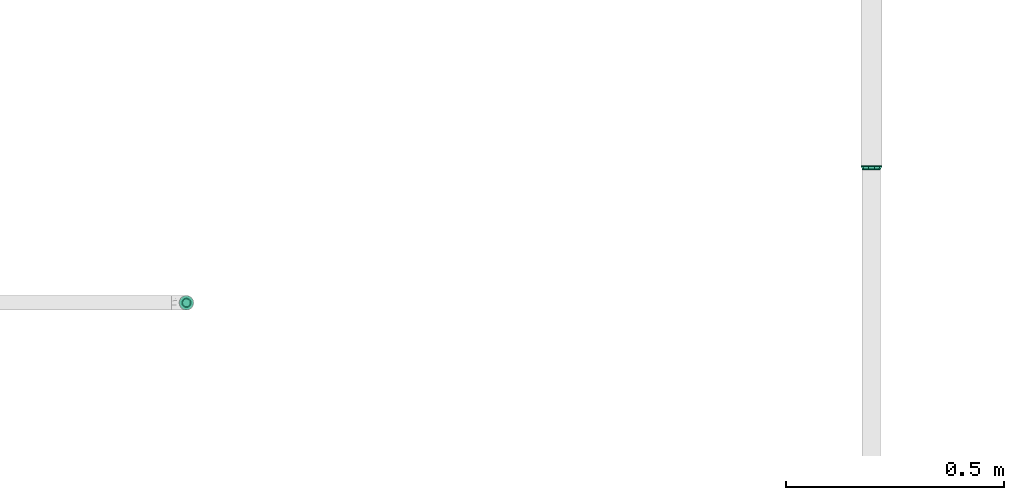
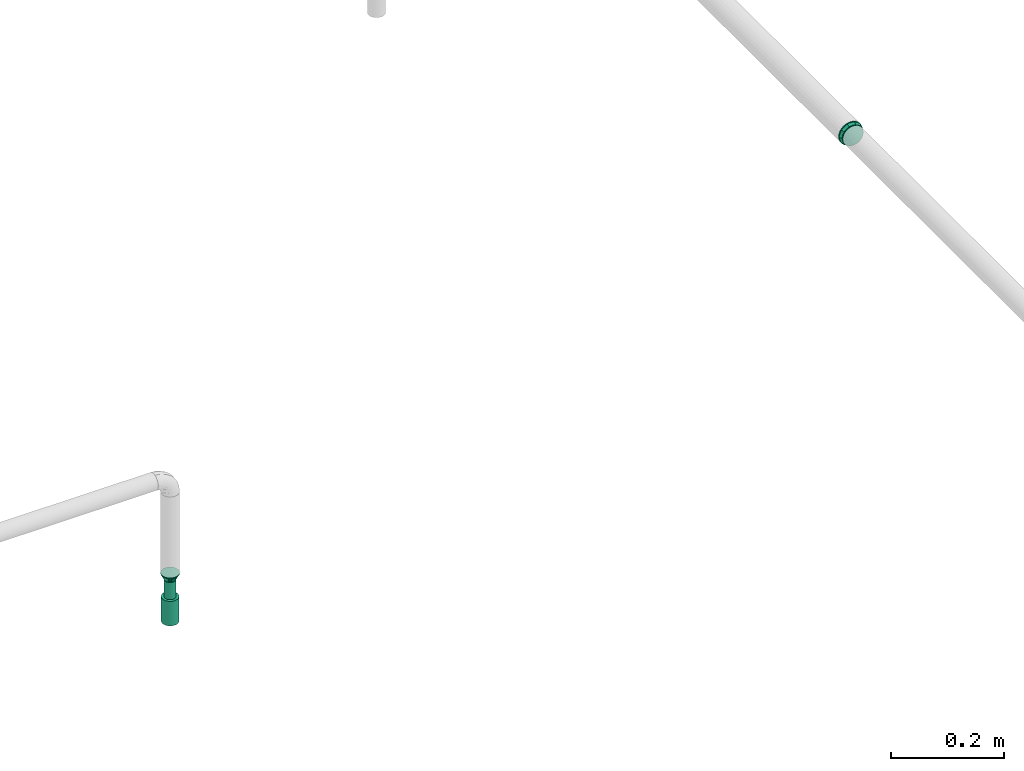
# One storey, part 22 of 43: 2 flow fittings, 1 flow segment, 1 flow terminal.
"""IFC2X3 building model written with IfcOpenShell, lengths in millimetres."""

from ifc_helpers import new_model, entity, si_unit, converted_unit, derived_unit, direction, frame, origin_with_axes, origin_2d_with_axis, place, context, subcontext, project, spatial, hollow_circle, extrude, open_shell, surface_model, source, transform, mapped, type_object, element, save


model = new_model("IFC2X3")

# Units and contexts
model_context = context("Model", 3, precision=0.01, world=frame((0.0, 4.29681676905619e-09, 0.0)), true_north=direction((4.01073788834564e-13, 1.0)))
plan_context = context("Plan", 3, precision=0.01, world=frame((0.0, 4.29681676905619e-09, 0.0)), true_north=direction((4.01073788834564e-13, 1.0)))
body_context = subcontext(model_context, "Body", "Model", "MODEL_VIEW")
ifc_project = project(units=[converted_unit("PLANEANGLEUNIT", "DEGREE", entity("IfcPositiveLengthMeasure", 0.0174532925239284), si_unit("PLANEANGLEUNIT", "RADIAN"), dimensions=[0, 0, 0, 0, 0, 0, 0]), si_unit("AREAUNIT", "SQUARE_METRE"), si_unit("LENGTHUNIT", "METRE", prefix="MILLI"), si_unit("MASSUNIT", "GRAM", prefix="KILO"), si_unit("POWERUNIT", "WATT"), si_unit("PRESSUREUNIT", "PASCAL"), si_unit("FORCEUNIT", "NEWTON", prefix="KILO"), si_unit("ELECTRICVOLTAGEUNIT", "VOLT"), si_unit("ELECTRICCURRENTUNIT", "AMPERE"), si_unit("THERMODYNAMICTEMPERATUREUNIT", "DEGREE_CELSIUS"), si_unit("TIMEUNIT", "SECOND"), si_unit("VOLUMEUNIT", "CUBIC_METRE"), derived_unit("LINEARVELOCITYUNIT", [(si_unit("LENGTHUNIT", "METRE"), 1), (si_unit("TIMEUNIT", "SECOND"), -1)]), derived_unit("VOLUMETRICFLOWRATEUNIT", [(si_unit("VOLUMEUNIT", "CUBIC_METRE"), 1), (si_unit("TIMEUNIT", "SECOND"), -1)]), derived_unit("THERMALTRANSMITTANCEUNIT", [(si_unit("POWERUNIT", "WATT"), 1), (si_unit("THERMODYNAMICTEMPERATUREUNIT", "KELVIN"), -1), (si_unit("AREAUNIT", "SQUARE_METRE"), -1)]), derived_unit("SOUNDPRESSUREUNIT", [(si_unit("PRESSUREUNIT", "PASCAL"), 1)])], contexts=[model_context, plan_context])

# Site, building, storey
site_placement = place(None, frame((0.0, -4.29681676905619e-09, 0.0), z_axis=(0.0, 0.0, 1.0), x_axis=(1.0, 0.0, 0.0)))
site = spatial("IfcSite", under=ifc_project, at=site_placement, CompositionType="ELEMENT")
building_placement = place(site_placement, frame((0.0, 4.29681676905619e-09, 0.0), z_axis=(0.0, 0.0, 1.0), x_axis=(1.0, 0.0, 0.0)))
building = spatial("IfcBuilding", under=site, at=building_placement, Name="mc-building", CompositionType="ELEMENT")
storey_placement = place(building_placement, frame((0.0, 0.0, 210900.0), z_axis=(0.0, 0.0, 1.0), x_axis=(1.0, 0.0, 0.0)))
storey = spatial("IfcBuildingStorey", under=building, at=storey_placement, Name="Nivå F", CompositionType="ELEMENT", Elevation=210900.0)

# Flow fittings
pipe_fitting_type = type_object("IfcPipeFittingType", Name="magi_pipe_fe_reducer_centric_short_NOR", PredefinedType="TRANSITION")
shared_shape_1 = source(origin_with_axes(), body_context, "Body", "SurfaceModel", [
    surface_model("IfcShellBasedSurfaceModel", [(14.4, 5.35, -9.26647), (14.4, 0.0, -10.7), (14.4, 2.76936, -10.33541), (14.4, 10.33541, -2.76936), (14.4, 7.56604, -7.56604), (14.4, -5.35, -9.26647), (14.4, 9.26647, -5.35), (14.4, -9.26647, 5.35), (14.4, -2.76936, -10.33541), (14.4, -7.56604, -7.56604), (14.4, -10.33541, -2.76936), (14.4, -9.26647, -5.35), (14.4, 10.33541, 2.76936), (14.4, 10.7, 0.0), (14.4, 9.26647, 5.35), (14.4, 7.56604, 7.56604), (14.4, 2.76936, 10.33541), (14.4, 0.0, 10.7), (14.4, 5.35, 9.26647), (14.4, -10.33541, 2.76936), (14.4, -10.7, 0.0), (14.4, -7.56604, 7.56604), (14.4, -2.76936, 10.33541), (14.4, -5.35, 9.26647), (12.4, 0.0, 10.7), (12.4, 2.76936, 10.33541), (12.4, 5.35, 9.26647), (12.4, 7.56604, 7.56604), (12.4, 9.26647, 5.35), (12.4, 10.33541, 2.76936), (12.4, -10.33541, 2.76936), (12.4, 10.33541, -2.76936), (12.4, -2.76936, 10.33541), (12.4, -7.56604, 7.56604), (12.4, -5.35, 9.26647), (12.4, -9.26647, 5.35), (12.4, -10.33541, -2.76936), (12.4, -10.7, 0.0), (12.4, 2.76936, -10.33541), (12.4, 9.26647, -5.35), (12.4, 7.56604, -7.56604), (12.4, 5.35, -9.26647), (12.4, -7.56604, -7.56604), (12.4, -9.26647, -5.35), (12.4, -5.35, -9.26647), (12.4, 0.0, -10.7), (12.4, -2.76936, -10.33541), (12.4, 10.7, 0.0), (-2.0, 11.9501, 11.9501), (-2.0, 0.0, 16.9), (-2.0, 4.37404, 16.32415), (-2.0, 8.45, 14.63583), (-2.0, 14.63583, 8.45), (-2.0, 16.32415, 4.37404), (-2.0, -16.32415, 4.37404), (-2.0, -8.45, 14.63583), (-2.0, -14.63583, 8.45), (-2.0, -11.9501, 11.9501), (-2.0, -4.37404, 16.32415), (-2.0, -16.32415, -4.37404), (-2.0, -16.9, 0.0), (-2.0, -8.45, -14.63583), (-2.0, 16.32415, -4.37404), (-2.0, 11.9501, -11.9501), (-2.0, 14.63583, -8.45), (-2.0, 8.45, -14.63583), (-2.0, 4.37404, -16.32415), (-2.0, 0.0, -16.9), (-2.0, -11.9501, -11.9501), (-2.0, -14.63583, -8.45), (-2.0, -4.37404, -16.32415), (-2.0, 16.9, 0.0), (0.0, 4.37404, -16.32415), (0.0, 8.45, -14.63583), (0.0, 11.9501, -11.9501), (0.0, 0.0, -16.9), (0.0, 16.32415, -4.37404), (0.0, 16.32415, 4.37404), (0.0, 14.63583, -8.45), (0.0, -8.45, -14.63583), (0.0, -4.37404, -16.32415), (0.0, -11.9501, -11.9501), (0.0, -16.32415, -4.37404), (0.0, -14.63583, -8.45), (0.0, -16.32415, 4.37404), (0.0, 16.9, 0.0), (0.0, 14.63583, 8.45), (0.0, 11.9501, 11.9501), (0.0, 4.37404, 16.32415), (0.0, 8.45, 14.63583), (0.0, 0.0, 16.9), (0.0, -14.63583, 8.45), (0.0, -16.9, 0.0), (0.0, -8.45, 14.63583), (0.0, -11.9501, 11.9501), (0.0, -4.37404, 16.32415), (12.4, 9.3625, -2.31662), (0.0, 14.42505, -5.97505), (0.0, 15.66253, -2.98753), (12.4, -6.6875, -6.94985), (0.0, -13.18758, -8.96258), (0.0, 2.98753, -15.66253), (12.4, 0.0, -9.26647), (12.4, 6.6875, -6.94985), (0.0, 8.96258, -13.18758), (12.4, -9.3625, -2.31662), (0.0, -15.66253, -2.98753), (0.0, -14.42505, -5.97505), (0.0, 5.97505, -14.42505), (0.0, -2.98753, -15.66253), (0.0, -8.96258, -13.18758), (0.0, 13.18758, -8.96258), (12.4, 8.025, -4.63324), (12.4, -2.675, -9.26647), (12.4, 2.675, -9.26647), (0.0, -5.97505, -14.42505), (12.4, -8.025, -4.63324), (12.4, -9.3625, 2.31662), (0.0, -14.42505, 5.97505), (0.0, -15.66253, 2.98753), (12.4, 6.6875, 6.94985), (0.0, 13.18758, 8.96258), (0.0, -2.98753, 15.66253), (12.4, 0.0, 9.26647), (12.4, -6.6875, 6.94985), (0.0, -8.96258, 13.18758), (12.4, 9.3625, 2.31662), (0.0, 15.66253, 2.98753), (0.0, 14.42505, 5.97505), (0.0, -5.97505, 14.42505), (0.0, 2.98753, 15.66253), (0.0, 8.96258, 13.18758), (0.0, -13.18758, 8.96258), (12.4, -8.025, 4.63324), (12.4, 2.675, 9.26647), (12.4, -2.675, 9.26647), (0.0, 5.97505, 14.42505), (12.4, 8.025, 4.63324)], [open_shell([[[0, 1, 2]], [[3, 0, 4]], [[5, 0, 3]], [[3, 4, 6]], [[7, 5, 3]], [[1, 5, 8]], [[1, 0, 5]], [[9, 10, 11]], [[10, 9, 5]], [[5, 7, 10]], [[12, 3, 13]], [[12, 14, 15]], [[3, 15, 7]], [[16, 17, 15]], [[16, 15, 18]], [[7, 15, 17]], [[10, 19, 20]], [[7, 19, 10]], [[21, 22, 23]], [[22, 21, 7]], [[17, 22, 7]], [[3, 12, 15]], [[24, 25, 26]], [[24, 26, 27]], [[27, 28, 29]], [[24, 27, 30]], [[31, 30, 27]], [[32, 33, 34]], [[33, 32, 30]], [[33, 30, 35]], [[32, 24, 30]], [[30, 36, 37]], [[31, 27, 29]], [[36, 30, 31]], [[38, 31, 39]], [[40, 41, 38]], [[40, 38, 39]], [[36, 31, 38]], [[36, 42, 43]], [[42, 36, 44]], [[44, 45, 46]], [[44, 36, 38]], [[38, 45, 44]], [[31, 29, 47]], [[36, 10, 37]], [[43, 11, 36]], [[5, 42, 44]], [[43, 42, 9]], [[8, 44, 46]], [[36, 11, 10]], [[10, 20, 37]], [[8, 5, 44]], [[9, 42, 5]], [[9, 11, 43]], [[1, 8, 46]], [[46, 45, 1]], [[38, 2, 45]], [[41, 0, 38]], [[6, 40, 39]], [[41, 40, 4]], [[3, 39, 31]], [[41, 4, 0]], [[0, 2, 38]], [[13, 3, 31]], [[6, 39, 3]], [[6, 4, 40]], [[47, 13, 31]], [[45, 2, 1]], [[29, 12, 47]], [[28, 14, 29]], [[18, 27, 26]], [[28, 27, 15]], [[16, 26, 25]], [[29, 14, 12]], [[12, 13, 47]], [[16, 18, 26]], [[15, 27, 18]], [[15, 14, 28]], [[17, 16, 25]], [[25, 24, 17]], [[32, 22, 24]], [[34, 23, 32]], [[7, 33, 35]], [[34, 33, 21]], [[19, 35, 30]], [[34, 21, 23]], [[23, 22, 32]], [[20, 19, 30]], [[7, 35, 19]], [[7, 21, 33]], [[37, 20, 30]], [[24, 22, 17]], [[48, 49, 50]], [[48, 50, 51]], [[48, 52, 53]], [[48, 53, 49]], [[49, 53, 54]], [[55, 56, 57]], [[55, 58, 49]], [[56, 55, 49]], [[49, 54, 56]], [[54, 59, 60]], [[54, 53, 61]], [[53, 62, 63]], [[63, 62, 64]], [[63, 65, 66]], [[61, 53, 63]], [[67, 63, 66]], [[59, 68, 69]], [[68, 59, 61]], [[61, 67, 70]], [[59, 54, 61]], [[63, 67, 61]], [[53, 71, 62]], [[72, 73, 74]], [[75, 72, 74]], [[74, 76, 77]], [[76, 74, 78]], [[74, 77, 79]], [[75, 79, 80]], [[75, 74, 79]], [[81, 82, 83]], [[82, 81, 79]], [[79, 84, 82]], [[77, 76, 85]], [[77, 86, 87]], [[77, 87, 88]], [[88, 84, 79]], [[88, 87, 89]], [[84, 88, 90]], [[90, 91, 84]], [[92, 82, 84]], [[91, 93, 94]], [[91, 90, 93]], [[93, 90, 95]], [[79, 77, 88]], [[59, 82, 60]], [[69, 83, 59]], [[79, 68, 61]], [[69, 68, 81]], [[80, 61, 70]], [[59, 83, 82]], [[82, 92, 60]], [[80, 79, 61]], [[81, 68, 79]], [[81, 83, 69]], [[75, 80, 70]], [[70, 67, 75]], [[66, 72, 67]], [[65, 73, 66]], [[78, 63, 64]], [[65, 63, 74]], [[76, 64, 62]], [[65, 74, 73]], [[73, 72, 66]], [[85, 76, 62]], [[78, 64, 76]], [[78, 74, 63]], [[71, 85, 62]], [[67, 72, 75]], [[53, 77, 71]], [[52, 86, 53]], [[89, 48, 51]], [[52, 48, 87]], [[88, 51, 50]], [[53, 86, 77]], [[77, 85, 71]], [[88, 89, 51]], [[87, 48, 89]], [[87, 86, 52]], [[90, 88, 50]], [[50, 49, 90]], [[58, 95, 49]], [[55, 93, 58]], [[91, 57, 56]], [[55, 57, 94]], [[84, 56, 54]], [[55, 94, 93]], [[93, 95, 58]], [[92, 84, 54]], [[91, 56, 84]], [[91, 94, 57]], [[60, 92, 54]], [[49, 95, 90]], [[26, 34, 47]], [[47, 34, 44]], [[44, 41, 47]], [[44, 34, 37]], [[90, 87, 92]], [[92, 94, 90]], [[87, 74, 92]], [[75, 92, 74]], [[81, 92, 75]], [[74, 87, 85]], [[96, 97, 98]], [[81, 99, 100]], [[101, 102, 75]], [[98, 85, 47]], [[74, 103, 104]], [[104, 103, 41]], [[105, 106, 107]], [[41, 108, 104]], [[102, 109, 75]], [[110, 99, 81]], [[47, 96, 98]], [[103, 111, 112]], [[109, 102, 113]], [[37, 92, 106]], [[102, 101, 114]], [[110, 115, 44]], [[96, 112, 97]], [[107, 116, 105]], [[37, 106, 105]], [[113, 115, 109]], [[44, 115, 113]], [[116, 107, 100]], [[108, 41, 114]], [[111, 103, 74]], [[111, 97, 112]], [[99, 110, 44]], [[116, 100, 99]], [[101, 108, 114]], [[117, 118, 119]], [[87, 120, 121]], [[122, 123, 90]], [[119, 92, 37]], [[94, 124, 125]], [[125, 124, 34]], [[126, 127, 128]], [[34, 129, 125]], [[123, 130, 90]], [[131, 120, 87]], [[37, 117, 119]], [[124, 132, 133]], [[130, 123, 134]], [[47, 85, 127]], [[123, 122, 135]], [[131, 136, 26]], [[117, 133, 118]], [[128, 137, 126]], [[47, 127, 126]], [[134, 136, 130]], [[26, 136, 134]], [[137, 128, 121]], [[129, 34, 135]], [[132, 124, 94]], [[132, 118, 133]], [[120, 131, 26]], [[137, 121, 120]], [[122, 129, 135]]])]),
])
flow_fitting_1_placement = place(storey_placement, frame((608794.57252, 692259.33183, 2449.35200000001), z_axis=(0.0, 1.0, 0.0), x_axis=(0.0, 0.0, -1.0)))
element("IfcFlowFitting", 1, at=flow_fitting_1_placement, inside=storey, type_object=pipe_fitting_type, Name="magi_pipe_fe_reducer_centric_short_NOR", context=body_context, shape_type="MappedRepresentation", body=[
    mapped(shared_shape_1, transform((0.0, 0.0, 0.0), scale=1.0)),
])
shared_shape_2 = source(origin_with_axes(), body_context, "Body", "SurfaceModel", [
    surface_model("IfcShellBasedSurfaceModel", [(-2.0, 0.0, 21.2), (-2.0, 5.48696, 20.47763), (-2.0, 10.6, 18.35974), (-2.0, 14.99066, 14.99066), (-2.0, 18.35974, 10.6), (-2.0, 20.47763, 5.48696), (-2.0, -21.2, 0.0), (-2.0, -14.99066, -14.99066), (-2.0, -5.48696, 20.47763), (-2.0, -14.99066, 14.99066), (-2.0, -10.6, 18.35974), (-2.0, -18.35974, 10.6), (-2.0, -20.47763, 5.48696), (-2.0, 20.47763, -5.48696), (-2.0, 10.6, -18.35974), (-2.0, 14.99066, -14.99066), (-2.0, 18.35974, -10.6), (-2.0, 5.48696, -20.47763), (-2.0, 0.0, -21.2), (-2.0, -18.35974, -10.6), (-2.0, -20.47763, -5.48696), (-2.0, -10.6, -18.35974), (-2.0, -5.48696, -20.47763), (-2.0, 21.2, 0.0), (0.0, 10.6, -18.35974), (0.0, 0.0, -21.2), (0.0, 5.48696, -20.47763), (0.0, 20.47763, -5.48696), (0.0, 14.99066, -14.99066), (0.0, -21.2, 0.0), (0.0, -14.99066, -14.99066), (0.0, 18.35974, -10.6), (0.0, -10.6, -18.35974), (0.0, -5.48696, -20.47763), (0.0, -18.35974, -10.6), (0.0, -20.47763, -5.48696), (0.0, -18.35974, 10.6), (0.0, 21.2, 0.0), (0.0, 20.47763, 5.48696), (0.0, 18.35974, 10.6), (0.0, 14.99066, 14.99066), (0.0, 0.0, 21.2), (0.0, 10.6, 18.35974), (0.0, 5.48696, 20.47763), (0.0, -14.99066, 14.99066), (0.0, -20.47763, 5.48696), (0.0, -5.48696, 20.47763), (0.0, -10.6, 18.35974), (8.0, 24.2, 0.0), (8.0, 6.26342, -23.37541), (8.0, 12.1, -20.95781), (8.0, 23.37541, -6.26342), (8.0, 17.11198, -17.11198), (8.0, 20.95781, -12.1), (8.0, -24.2, 0.0), (8.0, -12.1, -20.95781), (8.0, -6.26342, -23.37541), (8.0, 0.0, -24.2), (8.0, -17.11198, -17.11198), (8.0, -23.37541, -6.26342), (8.0, -20.95781, -12.1), (8.0, 20.95781, 12.1), (8.0, 17.11198, 17.11198), (8.0, 12.1, 20.95781), (8.0, 6.26342, 23.37541), (8.0, 0.0, 24.2), (8.0, -23.37541, 6.26342), (8.0, -17.11198, 17.11198), (8.0, -20.95781, 12.1), (8.0, -6.26342, 23.37541), (8.0, -12.1, 20.95781), (8.0, 23.37541, 6.26342), (6.0, 0.0, 24.2), (6.0, 6.26342, 23.37541), (6.0, 12.1, 20.95781), (6.0, 17.11198, 17.11198), (6.0, 6.26342, -23.37541), (6.0, 20.95781, 12.1), (6.0, -23.37541, 6.26342), (6.0, -17.11198, -17.11198), (6.0, -6.26342, 23.37541), (6.0, -17.11198, 17.11198), (6.0, -12.1, 20.95781), (6.0, -20.95781, 12.1), (6.0, -24.2, 0.0), (6.0, 23.37541, 6.26342), (6.0, 24.2, 0.0), (6.0, 23.37541, -6.26342), (6.0, 17.11198, -17.11198), (6.0, 20.95781, -12.1), (6.0, 12.1, -20.95781), (6.0, -23.37541, -6.26342), (6.0, -20.95781, -12.1), (6.0, -6.26342, -23.37541), (6.0, -12.1, -20.95781), (6.0, 0.0, -24.2), (6.0, 7.47821, 23.01557), (6.0, -7.47821, 23.01557), (6.0, 19.57821, 14.2244), (6.0, 19.57821, -14.2244), (6.0, -19.57821, 14.2244), (6.0, -19.57821, -14.2244), (6.0, 7.47821, -23.01557), (6.0, -7.47821, -23.01557), (0.0, -6.55116, 20.1624), (0.0, 6.55116, 20.1624), (0.0, -17.15116, 12.46105), (0.0, -17.15116, -12.46105), (0.0, 17.15116, 12.46105), (0.0, 17.15116, -12.46105), (0.0, -6.55116, -20.1624), (0.0, 6.55116, -20.1624), (6.0, -21.8891, -7.1122), (0.0, -19.17558, -6.23052), (0.0, -11.85116, -16.31172), (6.0, -13.52821, -18.61999), (6.0, 0.0, -23.01557), (0.0, 0.0, -20.1624), (0.0, 18.43768, -8.50153), (0.0, 19.72421, -4.54202), (6.0, 21.8891, -7.1122), (6.0, 13.52821, -18.61999), (0.0, 11.85116, -16.31172), (6.0, 21.8891, 7.1122), (0.0, 19.17558, 6.23052), (0.0, 11.85116, 16.31172), (6.0, 13.52821, 18.61999), (6.0, 0.0, 23.01557), (0.0, 0.0, 20.1624), (0.0, -18.43768, 8.50153), (0.0, -19.72421, 4.54202), (6.0, -21.8891, 7.1122), (6.0, -13.52821, 18.61999), (0.0, -11.85116, 16.31172)], [open_shell([[[0, 1, 2]], [[0, 2, 3]], [[3, 4, 5]], [[3, 5, 0]], [[6, 0, 7]], [[8, 9, 10]], [[8, 0, 9]], [[11, 6, 12]], [[9, 0, 11]], [[0, 6, 11]], [[0, 5, 7]], [[5, 13, 14]], [[15, 13, 16]], [[7, 5, 14]], [[14, 13, 15]], [[17, 18, 14]], [[6, 19, 20]], [[7, 19, 6]], [[21, 18, 22]], [[21, 7, 14]], [[18, 21, 14]], [[13, 5, 23]], [[24, 25, 26]], [[27, 24, 28]], [[29, 30, 24]], [[27, 28, 31]], [[27, 29, 24]], [[25, 32, 33]], [[25, 24, 32]], [[34, 29, 35]], [[32, 24, 30]], [[34, 30, 29]], [[36, 27, 37]], [[38, 39, 40]], [[38, 40, 41]], [[42, 43, 41]], [[42, 41, 40]], [[38, 41, 44]], [[29, 36, 45]], [[27, 36, 29]], [[44, 46, 47]], [[36, 38, 44]], [[41, 46, 44]], [[36, 37, 38]], [[20, 35, 6]], [[19, 34, 20]], [[32, 7, 21]], [[19, 7, 30]], [[33, 21, 22]], [[20, 34, 35]], [[35, 29, 6]], [[33, 32, 21]], [[30, 7, 32]], [[30, 34, 19]], [[25, 33, 22]], [[22, 18, 25]], [[17, 26, 18]], [[14, 24, 17]], [[31, 15, 16]], [[14, 15, 28]], [[27, 16, 13]], [[14, 28, 24]], [[24, 26, 17]], [[37, 27, 13]], [[31, 16, 27]], [[31, 28, 15]], [[23, 37, 13]], [[18, 26, 25]], [[5, 38, 23]], [[4, 39, 5]], [[42, 3, 2]], [[4, 3, 40]], [[43, 2, 1]], [[5, 39, 38]], [[38, 37, 23]], [[43, 42, 2]], [[40, 3, 42]], [[40, 39, 4]], [[41, 43, 1]], [[1, 0, 41]], [[8, 46, 0]], [[10, 47, 8]], [[36, 9, 11]], [[10, 9, 44]], [[45, 11, 12]], [[10, 44, 47]], [[47, 46, 8]], [[29, 45, 12]], [[36, 11, 45]], [[36, 44, 9]], [[6, 29, 12]], [[0, 46, 41]], [[48, 49, 50]], [[51, 50, 52]], [[51, 48, 50]], [[51, 52, 53]], [[49, 54, 55]], [[49, 56, 57]], [[49, 55, 56]], [[58, 59, 60]], [[58, 55, 54]], [[58, 54, 59]], [[49, 48, 61]], [[61, 62, 49]], [[49, 62, 54]], [[63, 64, 65]], [[63, 65, 62]], [[54, 62, 65]], [[66, 67, 68]], [[69, 66, 54]], [[67, 69, 70]], [[69, 67, 66]], [[54, 65, 69]], [[48, 71, 61]], [[72, 73, 74]], [[72, 74, 75]], [[76, 75, 77]], [[78, 72, 79]], [[72, 75, 79]], [[80, 81, 82]], [[80, 72, 81]], [[81, 78, 83]], [[72, 78, 81]], [[78, 79, 84]], [[76, 77, 85]], [[76, 86, 87]], [[88, 87, 89]], [[90, 76, 87]], [[90, 87, 88]], [[76, 79, 75]], [[91, 79, 92]], [[84, 79, 91]], [[76, 93, 94]], [[94, 79, 76]], [[93, 76, 95]], [[85, 86, 76]], [[91, 59, 84]], [[92, 60, 91]], [[55, 79, 94]], [[92, 79, 58]], [[56, 94, 93]], [[91, 60, 59]], [[59, 54, 84]], [[56, 55, 94]], [[58, 79, 55]], [[58, 60, 92]], [[57, 56, 93]], [[93, 95, 57]], [[76, 49, 95]], [[90, 50, 76]], [[53, 88, 89]], [[90, 88, 52]], [[51, 89, 87]], [[90, 52, 50]], [[50, 49, 76]], [[48, 51, 87]], [[53, 89, 51]], [[53, 52, 88]], [[86, 48, 87]], [[95, 49, 57]], [[85, 71, 86]], [[77, 61, 85]], [[63, 75, 74]], [[77, 75, 62]], [[64, 74, 73]], [[85, 61, 71]], [[71, 48, 86]], [[64, 63, 74]], [[62, 75, 63]], [[62, 61, 77]], [[65, 64, 73]], [[73, 72, 65]], [[80, 69, 72]], [[82, 70, 80]], [[68, 81, 83]], [[82, 81, 67]], [[66, 83, 78]], [[82, 67, 70]], [[70, 69, 80]], [[54, 66, 78]], [[68, 83, 66]], [[68, 67, 81]], [[84, 54, 78]], [[72, 69, 65]], [[96, 97, 84]], [[98, 99, 86]], [[96, 99, 98]], [[84, 97, 100]], [[84, 101, 99]], [[101, 102, 99]], [[102, 101, 103]], [[84, 99, 96]], [[104, 105, 37]], [[106, 107, 29]], [[104, 107, 106]], [[37, 105, 108]], [[37, 109, 107]], [[109, 110, 107]], [[110, 109, 111]], [[37, 107, 104]], [[112, 29, 113]], [[113, 107, 101]], [[103, 114, 110]], [[29, 112, 84]], [[113, 101, 112]], [[115, 107, 114]], [[116, 103, 110]], [[117, 102, 116]], [[102, 117, 111]], [[118, 119, 120]], [[107, 115, 101]], [[103, 115, 114]], [[111, 121, 102]], [[122, 99, 121]], [[119, 86, 120]], [[121, 111, 122]], [[119, 37, 86]], [[122, 109, 99]], [[116, 110, 117]], [[118, 99, 109]], [[99, 118, 120]], [[123, 37, 124]], [[124, 108, 98]], [[96, 125, 105]], [[37, 123, 86]], [[124, 98, 123]], [[126, 108, 125]], [[127, 96, 105]], [[128, 97, 127]], [[97, 128, 104]], [[129, 130, 131]], [[108, 126, 98]], [[96, 126, 125]], [[104, 132, 97]], [[133, 100, 132]], [[130, 84, 131]], [[132, 104, 133]], [[130, 29, 84]], [[133, 106, 100]], [[127, 105, 128]], [[129, 100, 106]], [[100, 129, 131]]])]),
])
flow_fitting_2_placement = place(storey_placement, frame((610366.6122, 692566.37925, 2660.0), z_axis=(0.0, 0.0, 1.0), x_axis=(0.0, 1.0, 0.0)))
element("IfcFlowFitting", 2, at=flow_fitting_2_placement, inside=storey, type_object=pipe_fitting_type, Name="magi_pipe_fe_reducer_centric_short_NOR", context=body_context, shape_type="MappedRepresentation", body=[
    mapped(shared_shape_2, transform((0.0, 0.0, 0.0), scale=1.0)),
])

# Flow segment
pipe_segment_type = type_object("IfcPipeSegmentType", Name="Stålrør normaltykke", PredefinedType="RIGIDSEGMENT")
shared_shape_3 = source(origin_with_axes(), body_context, "Body", "SweptSolid", [
    extrude(hollow_circle(Radius=10.7, WallThickness=2.0, at=origin_2d_with_axis()), frame((0.0, 0.0, 0.0), z_axis=(1.0, 0.0, 0.0), x_axis=(0.0, 1.0, 0.0)), (0.0, 0.0, 1.0), 39.5),
])
flow_segment_placement = place(storey_placement, frame((608794.57252, 692259.33183, 2436.95199999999), z_axis=(0.0, 1.0, 0.0), x_axis=(0.0, 0.0, -1.0)))
element("IfcFlowSegment", 3, at=flow_segment_placement, inside=storey, type_object=pipe_segment_type, Name="Stålrør normaltykke", context=body_context, shape_type="MappedRepresentation", body=[
    mapped(shared_shape_3, transform((0.0, 0.0, 0.0), scale=1.0)),
])

# Flow terminal
fire_suppression_terminal_type = type_object("IfcFireSuppressionTerminalType", Name="SP-15-K80-68DGR-STD-HIMLING", PredefinedType="NOTDEFINED")
shared_shape_4 = source(origin_with_axes(), body_context, "Body", "SurfaceModel", [
    surface_model("IfcShellBasedSurfaceModel", [(4.1411, -15.45481, 53.0), (8.0, -13.85641, 53.0), (11.31371, -11.31371, 53.0), (-8.0, -13.85641, 53.0), (15.45481, -4.1411, 53.0), (16.0, 0.0, 53.0), (13.85641, -8.0, 53.0), (0.0, -16.0, 53.0), (-4.1411, -15.45481, 53.0), (-13.85641, -8.0, 53.0), (-11.31371, -11.31371, 53.0), (-15.45481, -4.1411, 53.0), (15.45481, 4.1411, 53.0), (13.85641, 8.0, 53.0), (11.31371, 11.31371, 53.0), (-4.1411, 15.45481, 53.0), (8.0, 13.85641, 53.0), (4.1411, 15.45481, 53.0), (0.0, 16.0, 53.0), (-13.85641, 8.0, 53.0), (-15.45481, 4.1411, 53.0), (-16.0, 0.0, 53.0), (-11.31371, 11.31371, 53.0), (-8.0, 13.85641, 53.0), (0.0, 16.0, 0.0), (4.1411, 15.45481, 0.0), (8.0, 13.85641, 0.0), (-4.1411, 15.45481, 0.0), (11.31371, 11.31371, 0.0), (13.85641, 8.0, 0.0), (15.45481, 4.1411, 0.0), (-15.45481, -4.1411, 0.0), (-11.31371, 11.31371, 0.0), (-8.0, 13.85641, 0.0), (-13.85641, 8.0, 0.0), (-15.45481, 4.1411, 0.0), (-16.0, 0.0, 0.0), (4.1411, -15.45481, 0.0), (16.0, 0.0, 0.0), (15.45481, -4.1411, 0.0), (13.85641, -8.0, 0.0), (11.31371, -11.31371, 0.0), (8.0, -13.85641, 0.0), (-8.0, -13.85641, 0.0), (-13.85641, -8.0, 0.0), (-11.31371, -11.31371, 0.0), (0.0, -16.0, 0.0), (-4.1411, -15.45481, 0.0)], [open_shell([[[0, 1, 2]], [[3, 0, 2]], [[4, 5, 2]], [[4, 2, 6]], [[3, 2, 5]], [[7, 3, 8]], [[7, 0, 3]], [[3, 9, 10]], [[9, 3, 11]], [[5, 11, 3]], [[5, 12, 11]], [[12, 13, 14]], [[15, 12, 14]], [[16, 17, 18]], [[14, 16, 15]], [[18, 15, 16]], [[11, 19, 20]], [[21, 11, 20]], [[22, 15, 23]], [[15, 22, 19]], [[19, 11, 15]], [[11, 12, 15]], [[24, 25, 26]], [[27, 24, 26]], [[28, 29, 30]], [[27, 26, 28]], [[27, 28, 31]], [[27, 32, 33]], [[32, 27, 34]], [[34, 31, 35]], [[31, 34, 27]], [[35, 31, 36]], [[28, 30, 31]], [[37, 38, 39]], [[37, 39, 40]], [[41, 42, 37]], [[41, 37, 40]], [[38, 37, 43]], [[44, 43, 45]], [[43, 44, 31]], [[43, 46, 47]], [[43, 31, 38]], [[37, 46, 43]], [[38, 31, 30]], [[11, 31, 44]], [[45, 9, 44]], [[3, 43, 47]], [[45, 43, 10]], [[8, 47, 46]], [[31, 21, 36]], [[31, 11, 21]], [[44, 9, 11]], [[45, 10, 9]], [[3, 10, 43]], [[47, 8, 3]], [[46, 7, 8]], [[0, 37, 42]], [[41, 1, 42]], [[6, 40, 39]], [[41, 40, 2]], [[4, 39, 38]], [[37, 0, 7]], [[42, 1, 0]], [[41, 2, 1]], [[40, 6, 2]], [[4, 6, 39]], [[38, 5, 4]], [[37, 7, 46]], [[12, 38, 30]], [[13, 30, 29]], [[16, 26, 25]], [[17, 25, 24]], [[30, 13, 12]], [[12, 5, 38]], [[28, 14, 13]], [[28, 26, 14]], [[14, 26, 16]], [[25, 17, 16]], [[28, 13, 29]], [[24, 18, 17]], [[15, 27, 33]], [[32, 23, 33]], [[19, 34, 35]], [[32, 34, 22]], [[20, 35, 36]], [[27, 15, 18]], [[33, 23, 15]], [[32, 22, 23]], [[34, 19, 22]], [[20, 19, 35]], [[36, 21, 20]], [[27, 18, 24]]])]),
])
flow_terminal_placement = place(storey_placement, frame((608794.57252, 692259.33183, 2400.0), z_axis=(0.0, 0.0, -1.0), x_axis=(-1.0, 0.0, 0.0)))
element("IfcFlowTerminal", 4, at=flow_terminal_placement, inside=storey, type_object=fire_suppression_terminal_type, Name="SP-15-K80-68DGR-STD-HIMLING", context=body_context, shape_type="MappedRepresentation", body=[
    mapped(shared_shape_4, transform((0.0, 0.0, 0.0), scale=1.0)),
])

save(model, "model.ifc")
